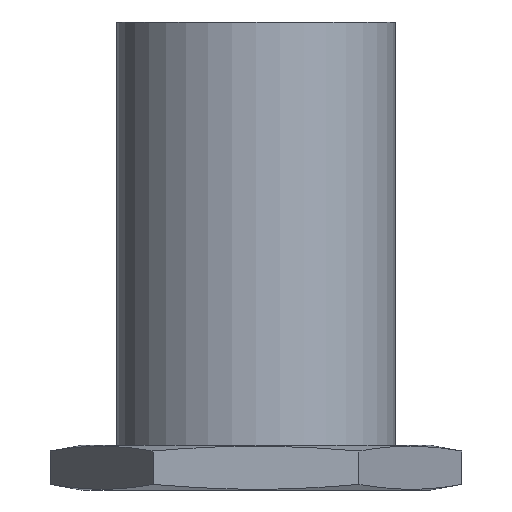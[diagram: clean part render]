
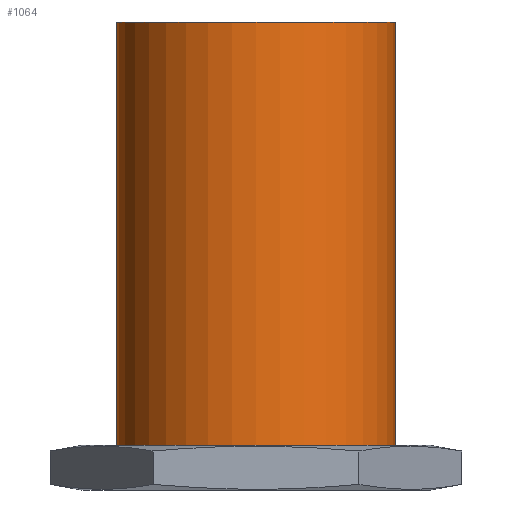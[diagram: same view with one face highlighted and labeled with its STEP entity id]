
A CAD part, front view. The second image highlights one B-rep face of the part: STEP entity #1064.
In plain terms, the highlighted cylindrical face has radius 12.5 mm (diameter 25 mm), a partial arc.
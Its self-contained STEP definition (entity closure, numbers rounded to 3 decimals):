
#136 = DIRECTION ( 'NONE',  ( 1., 0., 0. ) ) ;
#166 = CARTESIAN_POINT ( 'NONE',  ( 0., 0., 42. ) ) ;
#169 = ORIENTED_EDGE ( 'NONE', *, *, #1615, .T. ) ;
#301 = CARTESIAN_POINT ( 'NONE',  ( 0., 0., 4. ) ) ;
#312 = CIRCLE ( 'NONE', #1074, 12.5 ) ;
#328 = EDGE_CURVE ( 'NONE', #402, #1632, #1475, .T. ) ;
#402 = VERTEX_POINT ( 'NONE', #2038 ) ;
#416 = VECTOR ( 'NONE', #1871, 1000. ) ;
#439 = EDGE_CURVE ( 'NONE', #1248, #1632, #1329, .T. ) ;
#500 = EDGE_LOOP ( 'NONE', ( #1718, #2029, #169, #1732 ) ) ;
#612 = CARTESIAN_POINT ( 'NONE',  ( -12.5, 0., 42. ) ) ;
#693 = DIRECTION ( 'NONE',  ( 0., 0., -1. ) ) ;
#771 = VECTOR ( 'NONE', #693, 1000. ) ;
#816 = DIRECTION ( 'NONE',  ( -1., 0., 0. ) ) ;
#836 = DIRECTION ( 'NONE',  ( 0., 0., -1. ) ) ;
#932 = CARTESIAN_POINT ( 'NONE',  ( 12.5, 0., 4. ) ) ;
#962 = AXIS2_PLACEMENT_3D ( 'NONE', #166, #836, #816 ) ;
#1038 = EDGE_CURVE ( 'NONE', #1343, #402, #312, .T. ) ;
#1064 = ADVANCED_FACE ( 'NONE', ( #1790 ), #1768, .T. ) ;
#1074 = AXIS2_PLACEMENT_3D ( 'NONE', #1276, #1939, #1113 ) ;
#1113 = DIRECTION ( 'NONE',  ( 1., 0., 0. ) ) ;
#1160 = AXIS2_PLACEMENT_3D ( 'NONE', #301, #1874, #136 ) ;
#1248 = VERTEX_POINT ( 'NONE', #1799 ) ;
#1276 = CARTESIAN_POINT ( 'NONE',  ( 0., 0., 42. ) ) ;
#1329 = CIRCLE ( 'NONE', #1160, 12.5 ) ;
#1334 = LINE ( 'NONE', #612, #416 ) ;
#1343 = VERTEX_POINT ( 'NONE', #1748 ) ;
#1475 = LINE ( 'NONE', #2001, #771 ) ;
#1615 = EDGE_CURVE ( 'NONE', #1343, #1248, #1334, .T. ) ;
#1632 = VERTEX_POINT ( 'NONE', #932 ) ;
#1718 = ORIENTED_EDGE ( 'NONE', *, *, #328, .F. ) ;
#1732 = ORIENTED_EDGE ( 'NONE', *, *, #439, .T. ) ;
#1748 = CARTESIAN_POINT ( 'NONE',  ( -12.5, 0., 42. ) ) ;
#1768 = CYLINDRICAL_SURFACE ( 'NONE', #962, 12.5 ) ;
#1790 = FACE_OUTER_BOUND ( 'NONE', #500, .T. ) ;
#1799 = CARTESIAN_POINT ( 'NONE',  ( -12.5, 0., 4. ) ) ;
#1871 = DIRECTION ( 'NONE',  ( 0., 0., -1. ) ) ;
#1874 = DIRECTION ( 'NONE',  ( 0., 0., 1. ) ) ;
#1939 = DIRECTION ( 'NONE',  ( 0., 0., 1. ) ) ;
#2001 = CARTESIAN_POINT ( 'NONE',  ( 12.5, 0., 42. ) ) ;
#2029 = ORIENTED_EDGE ( 'NONE', *, *, #1038, .F. ) ;
#2038 = CARTESIAN_POINT ( 'NONE',  ( 12.5, 0., 42. ) ) ;
